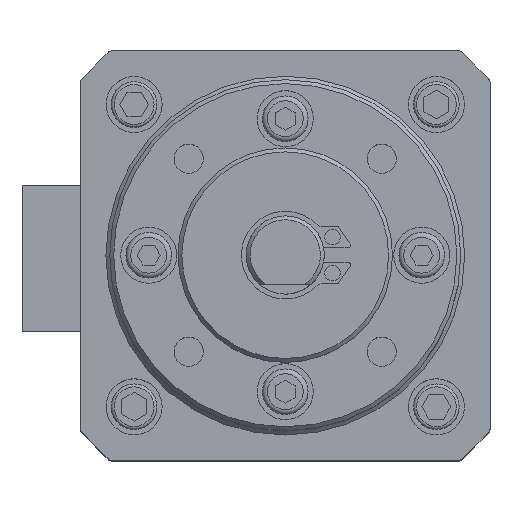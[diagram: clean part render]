
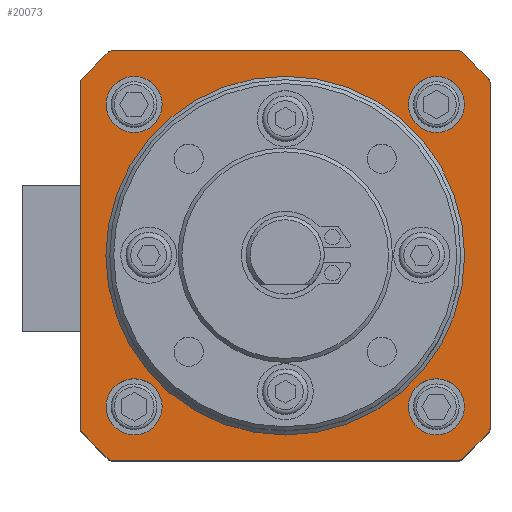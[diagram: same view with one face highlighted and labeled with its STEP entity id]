
A CAD part, top view. The second image highlights one B-rep face of the part: STEP entity #20073.
In plain terms, the highlighted planar face has unit normal (0, 0, 1).
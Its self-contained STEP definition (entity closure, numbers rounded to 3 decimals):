
#56=FACE_BOUND('',#1667,.T.);
#57=FACE_BOUND('',#1668,.T.);
#58=FACE_BOUND('',#1669,.T.);
#59=FACE_BOUND('',#1670,.T.);
#60=FACE_BOUND('',#1671,.T.);
#124=CIRCLE('',#21241,0.6);
#126=CIRCLE('',#21245,0.6);
#127=CIRCLE('',#21246,0.6);
#128=CIRCLE('',#21247,0.6);
#129=CIRCLE('',#21248,0.6);
#130=CIRCLE('',#21249,0.6);
#131=CIRCLE('',#21250,0.6);
#132=CIRCLE('',#21251,0.6);
#133=CIRCLE('',#21252,2.875);
#134=CIRCLE('',#21253,2.875);
#135=CIRCLE('',#21254,2.875);
#136=CIRCLE('',#21255,2.875);
#137=CIRCLE('',#21256,18.4);
#521=FACE_OUTER_BOUND('',#1666,.T.);
#1666=EDGE_LOOP('',(#13271,#13272,#13273,#13274,#13275,#13276,#13277,#13278,
#13279,#13280,#13281,#13282,#13283,#13284,#13285,#13286));
#1667=EDGE_LOOP('',(#13287));
#1668=EDGE_LOOP('',(#13288));
#1669=EDGE_LOOP('',(#13289));
#1670=EDGE_LOOP('',(#13290));
#1671=EDGE_LOOP('',(#13291));
#3457=LINE('',#29088,#6008);
#3460=LINE('',#29094,#6011);
#3461=LINE('',#29098,#6012);
#3462=LINE('',#29102,#6013);
#3463=LINE('',#29106,#6014);
#3464=LINE('',#29110,#6015);
#3465=LINE('',#29114,#6016);
#3466=LINE('',#29118,#6017);
#6008=VECTOR('',#23408,10.);
#6011=VECTOR('',#23413,10.);
#6012=VECTOR('',#23416,10.);
#6013=VECTOR('',#23419,10.);
#6014=VECTOR('',#23422,10.);
#6015=VECTOR('',#23425,10.);
#6016=VECTOR('',#23428,10.);
#6017=VECTOR('',#23431,10.);
#8418=VERTEX_POINT('',#29078);
#8419=VERTEX_POINT('',#29079);
#8422=VERTEX_POINT('',#29087);
#8424=VERTEX_POINT('',#29093);
#8425=VERTEX_POINT('',#29095);
#8426=VERTEX_POINT('',#29097);
#8427=VERTEX_POINT('',#29099);
#8428=VERTEX_POINT('',#29101);
#8429=VERTEX_POINT('',#29103);
#8430=VERTEX_POINT('',#29105);
#8431=VERTEX_POINT('',#29107);
#8432=VERTEX_POINT('',#29109);
#8433=VERTEX_POINT('',#29111);
#8434=VERTEX_POINT('',#29113);
#8435=VERTEX_POINT('',#29115);
#8436=VERTEX_POINT('',#29117);
#8437=VERTEX_POINT('',#29120);
#8438=VERTEX_POINT('',#29122);
#8439=VERTEX_POINT('',#29124);
#8440=VERTEX_POINT('',#29126);
#8441=VERTEX_POINT('',#29128);
#10236=EDGE_CURVE('',#8418,#8419,#124,.T.);
#10240=EDGE_CURVE('',#8419,#8422,#3457,.T.);
#10243=EDGE_CURVE('',#8418,#8424,#3460,.T.);
#10244=EDGE_CURVE('',#8425,#8424,#126,.T.);
#10245=EDGE_CURVE('',#8426,#8425,#3461,.T.);
#10246=EDGE_CURVE('',#8427,#8426,#127,.T.);
#10247=EDGE_CURVE('',#8427,#8428,#3462,.T.);
#10248=EDGE_CURVE('',#8429,#8428,#128,.T.);
#10249=EDGE_CURVE('',#8430,#8429,#3463,.T.);
#10250=EDGE_CURVE('',#8431,#8430,#129,.T.);
#10251=EDGE_CURVE('',#8431,#8432,#3464,.T.);
#10252=EDGE_CURVE('',#8433,#8432,#130,.T.);
#10253=EDGE_CURVE('',#8434,#8433,#3465,.T.);
#10254=EDGE_CURVE('',#8435,#8434,#131,.T.);
#10255=EDGE_CURVE('',#8435,#8436,#3466,.T.);
#10256=EDGE_CURVE('',#8422,#8436,#132,.T.);
#10257=EDGE_CURVE('',#8437,#8437,#133,.T.);
#10258=EDGE_CURVE('',#8438,#8438,#134,.T.);
#10259=EDGE_CURVE('',#8439,#8439,#135,.T.);
#10260=EDGE_CURVE('',#8440,#8440,#136,.T.);
#10261=EDGE_CURVE('',#8441,#8441,#137,.T.);
#13271=ORIENTED_EDGE('',*,*,#10236,.F.);
#13272=ORIENTED_EDGE('',*,*,#10243,.T.);
#13273=ORIENTED_EDGE('',*,*,#10244,.F.);
#13274=ORIENTED_EDGE('',*,*,#10245,.F.);
#13275=ORIENTED_EDGE('',*,*,#10246,.F.);
#13276=ORIENTED_EDGE('',*,*,#10247,.T.);
#13277=ORIENTED_EDGE('',*,*,#10248,.F.);
#13278=ORIENTED_EDGE('',*,*,#10249,.F.);
#13279=ORIENTED_EDGE('',*,*,#10250,.F.);
#13280=ORIENTED_EDGE('',*,*,#10251,.T.);
#13281=ORIENTED_EDGE('',*,*,#10252,.F.);
#13282=ORIENTED_EDGE('',*,*,#10253,.F.);
#13283=ORIENTED_EDGE('',*,*,#10254,.F.);
#13284=ORIENTED_EDGE('',*,*,#10255,.T.);
#13285=ORIENTED_EDGE('',*,*,#10256,.F.);
#13286=ORIENTED_EDGE('',*,*,#10240,.F.);
#13287=ORIENTED_EDGE('',*,*,#10257,.T.);
#13288=ORIENTED_EDGE('',*,*,#10258,.T.);
#13289=ORIENTED_EDGE('',*,*,#10259,.T.);
#13290=ORIENTED_EDGE('',*,*,#10260,.T.);
#13291=ORIENTED_EDGE('',*,*,#10261,.F.);
#17915=PLANE('',#21244);
#20073=ADVANCED_FACE('',(#521,#56,#57,#58,#59,#60),#17915,.T.);
#21241=AXIS2_PLACEMENT_3D('',#29080,#23400,#23401);
#21244=AXIS2_PLACEMENT_3D('',#29092,#23411,#23412);
#21245=AXIS2_PLACEMENT_3D('',#29096,#23414,#23415);
#21246=AXIS2_PLACEMENT_3D('',#29100,#23417,#23418);
#21247=AXIS2_PLACEMENT_3D('',#29104,#23420,#23421);
#21248=AXIS2_PLACEMENT_3D('',#29108,#23423,#23424);
#21249=AXIS2_PLACEMENT_3D('',#29112,#23426,#23427);
#21250=AXIS2_PLACEMENT_3D('',#29116,#23429,#23430);
#21251=AXIS2_PLACEMENT_3D('',#29119,#23432,#23433);
#21252=AXIS2_PLACEMENT_3D('',#29121,#23434,#23435);
#21253=AXIS2_PLACEMENT_3D('',#29123,#23436,#23437);
#21254=AXIS2_PLACEMENT_3D('',#29125,#23438,#23439);
#21255=AXIS2_PLACEMENT_3D('',#29127,#23440,#23441);
#21256=AXIS2_PLACEMENT_3D('',#29129,#23442,#23443);
#23400=DIRECTION('center_axis',(0.,0.,-1.));
#23401=DIRECTION('ref_axis',(-0.924,0.383,0.));
#23408=DIRECTION('',(0.707,0.707,0.));
#23411=DIRECTION('center_axis',(0.,0.,1.));
#23412=DIRECTION('ref_axis',(1.,0.,0.));
#23413=DIRECTION('',(0.,-1.,0.));
#23414=DIRECTION('center_axis',(0.,0.,-1.));
#23415=DIRECTION('ref_axis',(-0.924,-0.383,0.));
#23416=DIRECTION('',(-0.707,0.707,0.));
#23417=DIRECTION('center_axis',(0.,0.,-1.));
#23418=DIRECTION('ref_axis',(-0.383,-0.924,0.));
#23419=DIRECTION('',(1.,0.,0.));
#23420=DIRECTION('center_axis',(0.,0.,-1.));
#23421=DIRECTION('ref_axis',(0.383,-0.924,0.));
#23422=DIRECTION('',(-0.707,-0.707,0.));
#23423=DIRECTION('center_axis',(0.,0.,-1.));
#23424=DIRECTION('ref_axis',(0.924,-0.383,0.));
#23425=DIRECTION('',(0.,1.,0.));
#23426=DIRECTION('center_axis',(0.,0.,-1.));
#23427=DIRECTION('ref_axis',(0.924,0.383,0.));
#23428=DIRECTION('',(0.707,-0.707,0.));
#23429=DIRECTION('center_axis',(0.,0.,-1.));
#23430=DIRECTION('ref_axis',(0.383,0.924,0.));
#23431=DIRECTION('',(-1.,0.,0.));
#23432=DIRECTION('center_axis',(0.,0.,-1.));
#23433=DIRECTION('ref_axis',(-0.383,0.924,0.));
#23434=DIRECTION('center_axis',(0.,0.,-1.));
#23435=DIRECTION('ref_axis',(1.,0.,0.));
#23436=DIRECTION('center_axis',(0.,0.,-1.));
#23437=DIRECTION('ref_axis',(1.,0.,0.));
#23438=DIRECTION('center_axis',(0.,0.,-1.));
#23439=DIRECTION('ref_axis',(1.,0.,0.));
#23440=DIRECTION('center_axis',(0.,0.,-1.));
#23441=DIRECTION('ref_axis',(1.,0.,0.));
#23442=DIRECTION('center_axis',(0.,0.,1.));
#23443=DIRECTION('ref_axis',(1.,0.,0.));
#29078=CARTESIAN_POINT('',(-21.,17.751,5.));
#29079=CARTESIAN_POINT('',(-20.824,18.176,5.));
#29080=CARTESIAN_POINT('Origin',(-20.4,17.751,5.));
#29087=CARTESIAN_POINT('',(-18.176,20.824,5.));
#29088=CARTESIAN_POINT('',(-19.5,19.5,5.));
#29092=CARTESIAN_POINT('Origin',(0.,0.,
5.));
#29093=CARTESIAN_POINT('',(-21.,-17.751,5.));
#29094=CARTESIAN_POINT('',(-21.,21.,5.));
#29095=CARTESIAN_POINT('',(-20.824,-18.176,5.));
#29096=CARTESIAN_POINT('Origin',(-20.4,-17.751,5.));
#29097=CARTESIAN_POINT('',(-18.176,-20.824,5.));
#29098=CARTESIAN_POINT('',(-19.5,-19.5,5.));
#29099=CARTESIAN_POINT('',(-17.751,-21.,5.));
#29100=CARTESIAN_POINT('Origin',(-17.751,-20.4,5.));
#29101=CARTESIAN_POINT('',(17.751,-21.,5.));
#29102=CARTESIAN_POINT('',(-21.,-21.,5.));
#29103=CARTESIAN_POINT('',(18.176,-20.824,5.));
#29104=CARTESIAN_POINT('Origin',(17.751,-20.4,5.));
#29105=CARTESIAN_POINT('',(20.824,-18.176,5.));
#29106=CARTESIAN_POINT('',(19.5,-19.5,5.));
#29107=CARTESIAN_POINT('',(21.,-17.751,5.));
#29108=CARTESIAN_POINT('Origin',(20.4,-17.751,5.));
#29109=CARTESIAN_POINT('',(21.,17.751,5.));
#29110=CARTESIAN_POINT('',(21.,-21.,5.));
#29111=CARTESIAN_POINT('',(20.824,18.176,5.));
#29112=CARTESIAN_POINT('Origin',(20.4,17.751,5.));
#29113=CARTESIAN_POINT('',(18.176,20.824,5.));
#29114=CARTESIAN_POINT('',(19.5,19.5,5.));
#29115=CARTESIAN_POINT('',(17.751,21.,5.));
#29116=CARTESIAN_POINT('Origin',(17.751,20.4,5.));
#29117=CARTESIAN_POINT('',(-17.751,21.,5.));
#29118=CARTESIAN_POINT('',(21.,21.,5.));
#29119=CARTESIAN_POINT('Origin',(-17.751,20.4,5.));
#29120=CARTESIAN_POINT('',(-18.375,15.5,5.));
#29121=CARTESIAN_POINT('Origin',(-15.5,15.5,5.));
#29122=CARTESIAN_POINT('',(12.625,15.5,5.));
#29123=CARTESIAN_POINT('Origin',(15.5,15.5,5.));
#29124=CARTESIAN_POINT('',(-18.375,-15.5,5.));
#29125=CARTESIAN_POINT('Origin',(-15.5,-15.5,5.));
#29126=CARTESIAN_POINT('',(12.625,-15.5,5.));
#29127=CARTESIAN_POINT('Origin',(15.5,-15.5,5.));
#29128=CARTESIAN_POINT('',(-18.4,0.,5.));
#29129=CARTESIAN_POINT('Origin',(0.,0.,5.));
